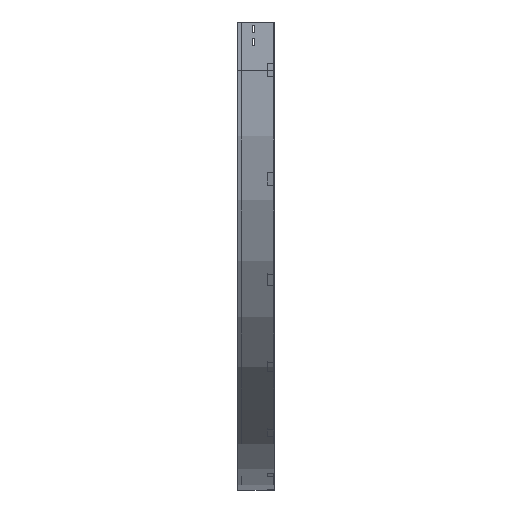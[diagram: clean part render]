
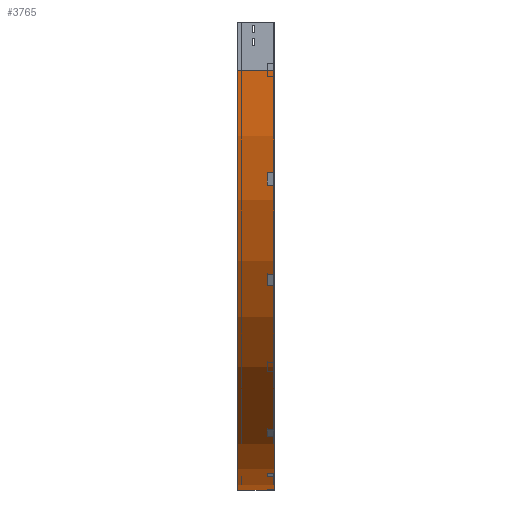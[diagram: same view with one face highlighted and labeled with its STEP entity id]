
A CAD part, left-side view. The second image highlights one B-rep face of the part: STEP entity #3765.
In plain terms, the highlighted cylindrical face has radius 1300 mm (diameter 2600 mm), a partial arc.
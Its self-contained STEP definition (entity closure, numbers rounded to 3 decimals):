
#103 = CYLINDRICAL_SURFACE ( 'NONE', #1085, 1300. ) ;
#155 = LINE ( 'NONE', #1274, #3208 ) ;
#224 = AXIS2_PLACEMENT_3D ( 'NONE', #616, #2716, #3870 ) ;
#257 = LINE ( 'NONE', #328, #2301 ) ;
#328 = CARTESIAN_POINT ( 'NONE',  ( 1300., 0., -1450. ) ) ;
#341 = CIRCLE ( 'NONE', #224, 1300. ) ;
#376 = DIRECTION ( 'NONE',  ( 0., -1., 0. ) ) ;
#409 = VERTEX_POINT ( 'NONE', #2961 ) ;
#616 = CARTESIAN_POINT ( 'NONE',  ( 1300., 112.5, -150. ) ) ;
#748 = EDGE_LOOP ( 'NONE', ( #836, #1694, #3768, #1755 ) ) ;
#836 = ORIENTED_EDGE ( 'NONE', *, *, #2477, .F. ) ;
#845 = CARTESIAN_POINT ( 'NONE',  ( 1300., 0., -1450. ) ) ;
#864 = DIRECTION ( 'NONE',  ( -1., 0., 0. ) ) ;
#1085 = AXIS2_PLACEMENT_3D ( 'NONE', #1589, #376, #3669 ) ;
#1103 = AXIS2_PLACEMENT_3D ( 'NONE', #3577, #3852, #864 ) ;
#1182 = EDGE_CURVE ( 'NONE', #1325, #1485, #155, .T. ) ;
#1274 = CARTESIAN_POINT ( 'NONE',  ( 0., 0., -150. ) ) ;
#1325 = VERTEX_POINT ( 'NONE', #3779 ) ;
#1479 = EDGE_CURVE ( 'NONE', #1325, #409, #341, .T. ) ;
#1485 = VERTEX_POINT ( 'NONE', #1811 ) ;
#1589 = CARTESIAN_POINT ( 'NONE',  ( 1300., 0., -150. ) ) ;
#1694 = ORIENTED_EDGE ( 'NONE', *, *, #1182, .F. ) ;
#1743 = DIRECTION ( 'NONE',  ( 0., -1., 0. ) ) ;
#1755 = ORIENTED_EDGE ( 'NONE', *, *, #2252, .T. ) ;
#1811 = CARTESIAN_POINT ( 'NONE',  ( 0., 0., -150. ) ) ;
#2252 = EDGE_CURVE ( 'NONE', #409, #3156, #257, .T. ) ;
#2301 = VECTOR ( 'NONE', #1743, 1000. ) ;
#2477 = EDGE_CURVE ( 'NONE', #1485, #3156, #3685, .T. ) ;
#2524 = DIRECTION ( 'NONE',  ( 0., -1., 0. ) ) ;
#2716 = DIRECTION ( 'NONE',  ( 0., -1., 0. ) ) ;
#2961 = CARTESIAN_POINT ( 'NONE',  ( 1300., 112.5, -1450. ) ) ;
#3076 = FACE_OUTER_BOUND ( 'NONE', #748, .T. ) ;
#3156 = VERTEX_POINT ( 'NONE', #845 ) ;
#3208 = VECTOR ( 'NONE', #2524, 1000. ) ;
#3577 = CARTESIAN_POINT ( 'NONE',  ( 1300., 0., -150. ) ) ;
#3669 = DIRECTION ( 'NONE',  ( 0., 0., -1. ) ) ;
#3685 = CIRCLE ( 'NONE', #1103, 1300. ) ;
#3765 = ADVANCED_FACE ( 'NONE', ( #3076 ), #103, .T. ) ;
#3768 = ORIENTED_EDGE ( 'NONE', *, *, #1479, .T. ) ;
#3779 = CARTESIAN_POINT ( 'NONE',  ( 0., 112.5, -150. ) ) ;
#3852 = DIRECTION ( 'NONE',  ( 0., -1., 0. ) ) ;
#3870 = DIRECTION ( 'NONE',  ( -1., 0., 0. ) ) ;
